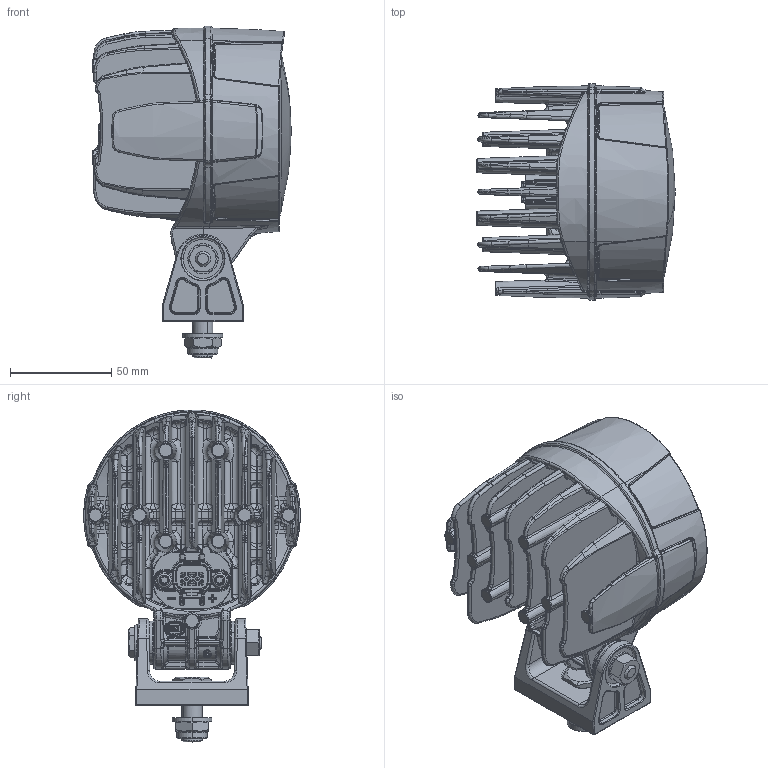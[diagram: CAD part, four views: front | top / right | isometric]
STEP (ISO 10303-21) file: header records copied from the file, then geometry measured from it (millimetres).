
FILE_DESCRIPTION(('CATIA V5 STEP Exchange','CAx-IF Rec.Pracs.--- Model Styling and Organization---1.5--- 2016-08-15','CAx-IF Rec.Pracs.---Supplemental Geometry---1.0---2011-11-01','CAx-IF Rec.Pracs.--- Composite Materials ---1.1---2010-07-15'),'2;1');
FILE_NAME('E:\tmp\ddx\2011218\HELLA_3D_data_Module 90_LED_1G0-996-263-03.stp','2022-01-18T07:20:07+00:00',('none'),('none'),'CATIA Version 5-6 Release 2020 SP3 HF9','CATIA V5 STEP AP214 Edition 3 v2','none');
FILE_SCHEMA(('AUTOMOTIVE_DESIGN { 1 0 10303 214 3 1 1 1 }'));
Products named in the file (1): 10001118227_D10_001
Bounding box: 98.02 x 106.94 x 163.97 mm (x, y, z)
Volume: 531508.9 mm3; surface area: 122079 mm2
Topology: 2 solids, 5 shells, 4393 faces, 10293 edges, 5556 vertices
Faces by surface type: bspline 1698, cylinder 960, plane 579, torus 455, sphere 302, cone 289, extrusion 82, revolution 28
Entity records: 222196 total; most frequent: CARTESIAN_POINT 143502, ORIENTED_EDGE 19768, EDGE_CURVE 9884, DIRECTION 9131, VERTEX_POINT 5556, B_SPLINE_CURVE_WITH_KNOTS 5498, AXIS2_PLACEMENT_3D 4753, EDGE_LOOP 4496
